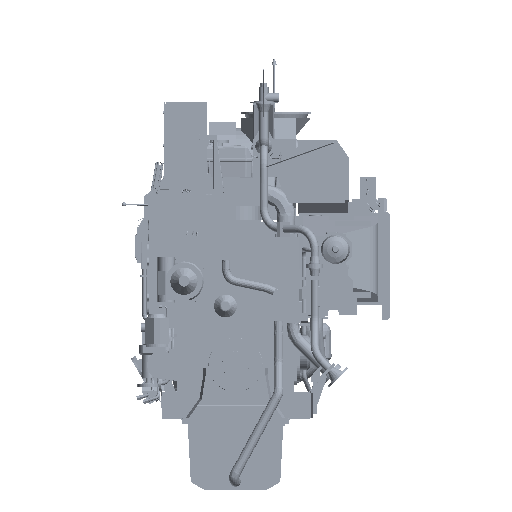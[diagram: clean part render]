
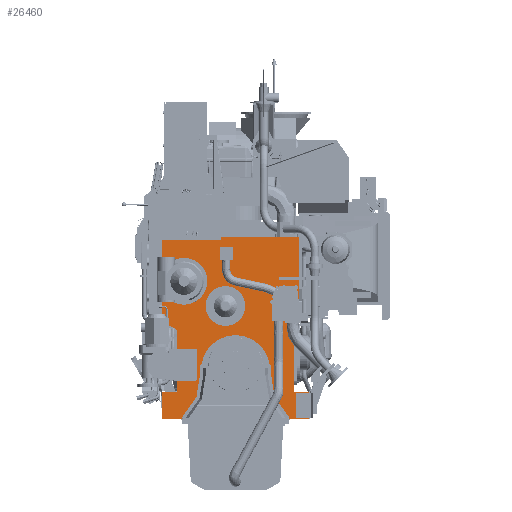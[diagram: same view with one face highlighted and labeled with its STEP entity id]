
A CAD part, left-side view. The second image highlights one B-rep face of the part: STEP entity #26460.
In plain terms, the highlighted planar face has unit normal (-1, 0, 0).
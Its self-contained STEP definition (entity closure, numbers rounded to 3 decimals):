
#16644=FACE_OUTER_BOUND('',#82020,.T.);
#26460=ADVANCED_FACE('',(#16644),#38022,.F.);
#38022=PLANE('',#201497);
#44256=LINE('',#266965,#60641);
#44260=LINE('',#266994,#60645);
#44264=LINE('',#267023,#60649);
#44268=LINE('',#267052,#60653);
#44271=LINE('',#267077,#60656);
#44284=LINE('',#267128,#60669);
#44292=LINE('',#267312,#60677);
#44309=LINE('',#268071,#60694);
#44315=LINE('',#268081,#60700);
#44320=LINE('',#268089,#60705);
#44323=LINE('',#268095,#60708);
#44325=LINE('',#268098,#60710);
#44328=LINE('',#268104,#60713);
#44330=LINE('',#268107,#60715);
#44332=LINE('',#268110,#60717);
#44335=LINE('',#268116,#60720);
#44338=LINE('',#268122,#60723);
#44340=LINE('',#268125,#60725);
#44341=LINE('',#268127,#60726);
#60641=VECTOR('',#217511,1.);
#60645=VECTOR('',#217537,1.);
#60649=VECTOR('',#217563,1.);
#60653=VECTOR('',#217589,1.);
#60656=VECTOR('',#217612,1.);
#60669=VECTOR('',#217651,1.);
#60677=VECTOR('',#217669,1.);
#60694=VECTOR('',#217722,1.);
#60700=VECTOR('',#217732,1.);
#60705=VECTOR('',#217739,1.);
#60708=VECTOR('',#217744,1.);
#60710=VECTOR('',#217748,1.);
#60713=VECTOR('',#217753,1.);
#60715=VECTOR('',#217757,1.);
#60717=VECTOR('',#217761,1.);
#60720=VECTOR('',#217766,1.);
#60723=VECTOR('',#217771,1.);
#60725=VECTOR('',#217775,1.);
#60726=VECTOR('',#217778,1.);
#82020=EDGE_LOOP('',(#96000,#96001,#96002,#96003,#96004,#96005,#96006,#96007,
#96008,#96009,#96010,#96011,#96012,#96013,#96014,#96015,#96016,#96017,#96018,
#96019));
#96000=ORIENTED_EDGE('',*,*,#168801,.T.);
#96001=ORIENTED_EDGE('',*,*,#168877,.T.);
#96002=ORIENTED_EDGE('',*,*,#168909,.F.);
#96003=ORIENTED_EDGE('',*,*,#168883,.T.);
#96004=ORIENTED_EDGE('',*,*,#168747,.T.);
#96005=ORIENTED_EDGE('',*,*,#168888,.T.);
#96006=ORIENTED_EDGE('',*,*,#168761,.T.);
#96007=ORIENTED_EDGE('',*,*,#168891,.T.);
#96008=ORIENTED_EDGE('',*,*,#168893,.T.);
#96009=ORIENTED_EDGE('',*,*,#168826,.T.);
#96010=ORIENTED_EDGE('',*,*,#168867,.T.);
#96011=ORIENTED_EDGE('',*,*,#168839,.T.);
#96012=ORIENTED_EDGE('',*,*,#168896,.T.);
#96013=ORIENTED_EDGE('',*,*,#168898,.T.);
#96014=ORIENTED_EDGE('',*,*,#168775,.T.);
#96015=ORIENTED_EDGE('',*,*,#168900,.T.);
#96016=ORIENTED_EDGE('',*,*,#168789,.T.);
#96017=ORIENTED_EDGE('',*,*,#168903,.T.);
#96018=ORIENTED_EDGE('',*,*,#168906,.T.);
#96019=ORIENTED_EDGE('',*,*,#168908,.T.);
#150563=VERTEX_POINT('',#266964);
#150564=VERTEX_POINT('',#266966);
#150577=VERTEX_POINT('',#266993);
#150578=VERTEX_POINT('',#266995);
#150591=VERTEX_POINT('',#267022);
#150592=VERTEX_POINT('',#267024);
#150605=VERTEX_POINT('',#267051);
#150606=VERTEX_POINT('',#267053);
#150616=VERTEX_POINT('',#267075);
#150618=VERTEX_POINT('',#267078);
#150642=VERTEX_POINT('',#267127);
#150643=VERTEX_POINT('',#267129);
#150651=VERTEX_POINT('',#267311);
#150652=VERTEX_POINT('',#267313);
#150673=VERTEX_POINT('',#268070);
#150676=VERTEX_POINT('',#268082);
#150679=VERTEX_POINT('',#268094);
#150681=VERTEX_POINT('',#268103);
#150683=VERTEX_POINT('',#268115);
#150685=VERTEX_POINT('',#268121);
#168747=EDGE_CURVE('',#150564,#150563,#44256,.T.);
#168761=EDGE_CURVE('',#150578,#150577,#44260,.T.);
#168775=EDGE_CURVE('',#150592,#150591,#44264,.T.);
#168789=EDGE_CURVE('',#150606,#150605,#44268,.T.);
#168801=EDGE_CURVE('',#150618,#150616,#44271,.T.);
#168826=EDGE_CURVE('',#150643,#150642,#44284,.T.);
#168839=EDGE_CURVE('',#150652,#150651,#44292,.T.);
#168867=EDGE_CURVE('',#150642,#150652,#196187,.T.);
#168877=EDGE_CURVE('',#150616,#150673,#44309,.T.);
#168883=EDGE_CURVE('',#150676,#150564,#44315,.T.);
#168888=EDGE_CURVE('',#150563,#150578,#44320,.T.);
#168891=EDGE_CURVE('',#150577,#150679,#44323,.T.);
#168893=EDGE_CURVE('',#150679,#150643,#44325,.T.);
#168896=EDGE_CURVE('',#150651,#150681,#44328,.T.);
#168898=EDGE_CURVE('',#150681,#150592,#44330,.T.);
#168900=EDGE_CURVE('',#150591,#150606,#44332,.T.);
#168903=EDGE_CURVE('',#150605,#150683,#44335,.T.);
#168906=EDGE_CURVE('',#150683,#150685,#44338,.T.);
#168908=EDGE_CURVE('',#150685,#150618,#44340,.T.);
#168909=EDGE_CURVE('',#150676,#150673,#44341,.T.);
#196187=CIRCLE('',#201481,177.);
#201481=AXIS2_PLACEMENT_3D('',#268050,#217705,#217706);
#201497=AXIS2_PLACEMENT_3D('',#268128,#217779,#217780);
#217511=DIRECTION('',(0.,1.,0.));
#217537=DIRECTION('',(0.,-1.,0.));
#217563=DIRECTION('',(0.,-1.,0.));
#217589=DIRECTION('',(0.,1.,0.));
#217612=DIRECTION('',(0.,1.,0.));
#217651=DIRECTION('',(0.,-1.,0.));
#217669=DIRECTION('',(0.,-1.,0.));
#217705=DIRECTION('',(1.,0.,0.));
#217706=DIRECTION('',(0.,-1.,0.));
#217722=DIRECTION('',(0.,0.,-1.));
#217732=DIRECTION('',(0.,0.,-1.));
#217739=DIRECTION('',(0.,0.,-1.));
#217744=DIRECTION('',(0.,-0.577,0.817));
#217748=DIRECTION('',(0.,0.,1.));
#217753=DIRECTION('',(0.,0.,-1.));
#217757=DIRECTION('',(0.,-0.577,-0.817));
#217761=DIRECTION('',(0.,0.,1.));
#217766=DIRECTION('',(0.,0.,1.));
#217771=DIRECTION('',(0.,-1.,0.));
#217775=DIRECTION('',(0.,0.,1.));
#217778=DIRECTION('',(0.,0.866,0.5));
#217779=DIRECTION('',(1.,0.,0.));
#217780=DIRECTION('',(0.,0.,-1.));
#266964=CARTESIAN_POINT('',(-4650.,675.,-250.));
#266965=CARTESIAN_POINT('',(-4650.,540.,-250.));
#266966=CARTESIAN_POINT('',(-4650.,540.,-250.));
#266993=CARTESIAN_POINT('',(-4650.,450.,-500.));
#266994=CARTESIAN_POINT('',(-4650.,675.,-500.));
#266995=CARTESIAN_POINT('',(-4650.,675.,-500.));
#267022=CARTESIAN_POINT('',(-4650.,-675.,-500.));
#267023=CARTESIAN_POINT('',(-4650.,-450.,-500.));
#267024=CARTESIAN_POINT('',(-4650.,-450.,-500.));
#267051=CARTESIAN_POINT('',(-4650.,-540.,-250.));
#267052=CARTESIAN_POINT('',(-4650.,-675.,-250.));
#267053=CARTESIAN_POINT('',(-4650.,-675.,-250.));
#267075=CARTESIAN_POINT('',(-4650.,675.,1180.));
#267077=CARTESIAN_POINT('',(-4650.,-585.,1180.));
#267078=CARTESIAN_POINT('',(-4650.,-585.,1180.));
#267127=CARTESIAN_POINT('',(-4650.,177.,0.));
#267128=CARTESIAN_POINT('',(-4650.,330.,0.));
#267129=CARTESIAN_POINT('',(-4650.,330.,0.));
#267311=CARTESIAN_POINT('',(-4650.,-330.,0.));
#267312=CARTESIAN_POINT('',(-4650.,-177.,0.));
#267313=CARTESIAN_POINT('',(-4650.,-177.,0.));
#268050=CARTESIAN_POINT('',(-4650.,0.,0.));
#268070=CARTESIAN_POINT('',(-4650.,675.,400.));
#268071=CARTESIAN_POINT('',(-4650.,675.,1055.));
#268081=CARTESIAN_POINT('',(-4650.,540.,482.058));
#268082=CARTESIAN_POINT('',(-4650.,540.,322.058));
#268089=CARTESIAN_POINT('',(-4650.,675.,-250.));
#268094=CARTESIAN_POINT('',(-4650.,330.,-330.));
#268095=CARTESIAN_POINT('',(-4650.,450.,-500.));
#268098=CARTESIAN_POINT('',(-4650.,330.,-330.));
#268103=CARTESIAN_POINT('',(-4650.,-330.,-330.));
#268104=CARTESIAN_POINT('',(-4650.,-330.,0.));
#268107=CARTESIAN_POINT('',(-4650.,-330.,-330.));
#268110=CARTESIAN_POINT('',(-4650.,-675.,-500.));
#268115=CARTESIAN_POINT('',(-4650.,-540.,430.03));
#268116=CARTESIAN_POINT('',(-4650.,-540.,-250.));
#268121=CARTESIAN_POINT('',(-4650.,-585.,430.03));
#268122=CARTESIAN_POINT('',(-4650.,-540.,430.03));
#268125=CARTESIAN_POINT('',(-4650.,-585.,430.03));
#268127=CARTESIAN_POINT('',(-4650.,531.676,317.252));
#268128=CARTESIAN_POINT('',(-4650.,0.,0.));
